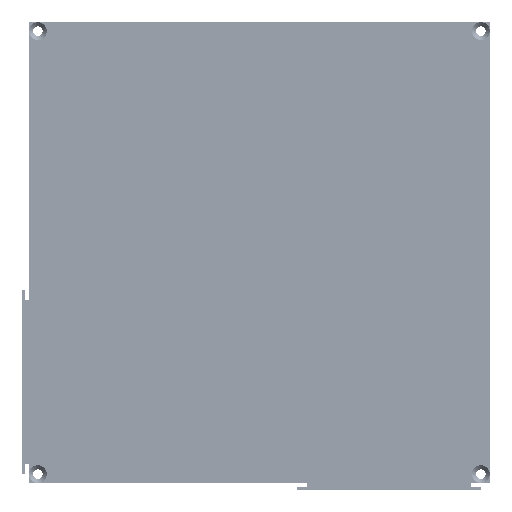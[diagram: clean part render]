
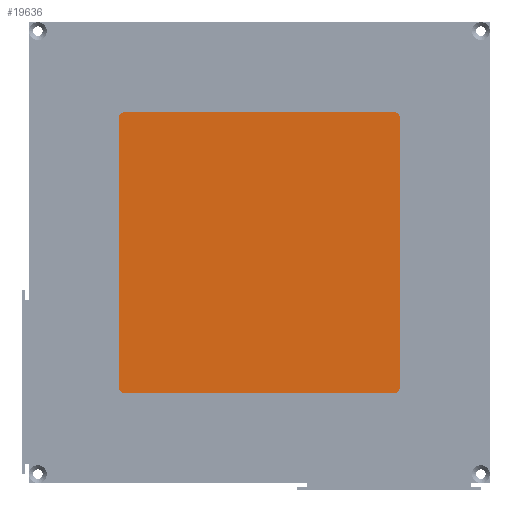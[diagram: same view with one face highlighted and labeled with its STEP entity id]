
A CAD part, front view. The second image highlights one B-rep face of the part: STEP entity #19636.
In plain terms, the highlighted planar face has unit normal (0, -1, 0).
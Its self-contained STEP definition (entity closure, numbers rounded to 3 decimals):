
#238=PLANE('',#20926);
#1280=FACE_OUTER_BOUND('',#2374,.T.);
#2374=EDGE_LOOP('',(#16507,#16508,#16509,#16510,#16511,#16512,#16513,#16514));
#2856=CIRCLE('',#20924,2.25);
#2858=CIRCLE('',#20927,2.25);
#2859=CIRCLE('',#20928,2.25);
#2860=CIRCLE('',#20929,2.25);
#5346=LINE('',#65675,#6644);
#5347=LINE('',#65679,#6645);
#5348=LINE('',#65683,#6646);
#5349=LINE('',#65686,#6647);
#6644=VECTOR('',#24314,10.);
#6645=VECTOR('',#24317,10.);
#6646=VECTOR('',#24320,10.);
#6647=VECTOR('',#24323,10.);
#8725=VERTEX_POINT('',#65665);
#8726=VERTEX_POINT('',#65666);
#8729=VERTEX_POINT('',#65674);
#8730=VERTEX_POINT('',#65676);
#8731=VERTEX_POINT('',#65678);
#8732=VERTEX_POINT('',#65680);
#8733=VERTEX_POINT('',#65682);
#8734=VERTEX_POINT('',#65684);
#11529=EDGE_CURVE('',#8725,#8726,#2856,.T.);
#11533=EDGE_CURVE('',#8729,#8725,#5346,.F.);
#11534=EDGE_CURVE('',#8730,#8729,#2858,.T.);
#11535=EDGE_CURVE('',#8731,#8730,#5347,.F.);
#11536=EDGE_CURVE('',#8732,#8731,#2859,.T.);
#11537=EDGE_CURVE('',#8733,#8732,#5348,.F.);
#11538=EDGE_CURVE('',#8734,#8733,#2860,.T.);
#11539=EDGE_CURVE('',#8726,#8734,#5349,.F.);
#16507=ORIENTED_EDGE('',*,*,#11529,.F.);
#16508=ORIENTED_EDGE('',*,*,#11533,.F.);
#16509=ORIENTED_EDGE('',*,*,#11534,.F.);
#16510=ORIENTED_EDGE('',*,*,#11535,.F.);
#16511=ORIENTED_EDGE('',*,*,#11536,.F.);
#16512=ORIENTED_EDGE('',*,*,#11537,.F.);
#16513=ORIENTED_EDGE('',*,*,#11538,.F.);
#16514=ORIENTED_EDGE('',*,*,#11539,.F.);
#19636=ADVANCED_FACE('',(#1280),#238,.T.);
#20924=AXIS2_PLACEMENT_3D('',#65667,#24306,#24307);
#20926=AXIS2_PLACEMENT_3D('',#65673,#24312,#24313);
#20927=AXIS2_PLACEMENT_3D('',#65677,#24315,#24316);
#20928=AXIS2_PLACEMENT_3D('',#65681,#24318,#24319);
#20929=AXIS2_PLACEMENT_3D('',#65685,#24321,#24322);
#24306=DIRECTION('center_axis',(0.,1.,0.));
#24307=DIRECTION('ref_axis',(-0.707,0.,0.707));
#24312=DIRECTION('center_axis',(0.,-1.,0.));
#24313=DIRECTION('ref_axis',(0.,0.,-1.));
#24314=DIRECTION('',(0.,0.,-1.));
#24315=DIRECTION('center_axis',(0.,1.,0.));
#24316=DIRECTION('ref_axis',(-0.707,0.,-0.707));
#24317=DIRECTION('',(1.,0.,0.));
#24318=DIRECTION('center_axis',(0.,1.,0.));
#24319=DIRECTION('ref_axis',(0.707,0.,-0.707));
#24320=DIRECTION('',(0.,0.,1.));
#24321=DIRECTION('center_axis',(0.,1.,0.));
#24322=DIRECTION('ref_axis',(0.707,0.,0.707));
#24323=DIRECTION('',(-1.,0.,0.));
#65665=CARTESIAN_POINT('',(-59.15,-202.,56.9));
#65666=CARTESIAN_POINT('',(-56.9,-202.,59.15));
#65667=CARTESIAN_POINT('Origin',(-56.9,-202.,56.9));
#65673=CARTESIAN_POINT('Origin',(0.,-202.,0.));
#65674=CARTESIAN_POINT('',(-59.15,-202.,-56.9));
#65675=CARTESIAN_POINT('',(-59.15,-202.,29.575));
#65676=CARTESIAN_POINT('',(-56.9,-202.,-59.15));
#65677=CARTESIAN_POINT('Origin',(-56.9,-202.,-56.9));
#65678=CARTESIAN_POINT('',(56.9,-202.,-59.15));
#65679=CARTESIAN_POINT('',(-29.575,-202.,-59.15));
#65680=CARTESIAN_POINT('',(59.15,-202.,-56.9));
#65681=CARTESIAN_POINT('Origin',(56.9,-202.,-56.9));
#65682=CARTESIAN_POINT('',(59.15,-202.,56.9));
#65683=CARTESIAN_POINT('',(59.15,-202.,-29.575));
#65684=CARTESIAN_POINT('',(56.9,-202.,59.15));
#65685=CARTESIAN_POINT('Origin',(56.9,-202.,56.9));
#65686=CARTESIAN_POINT('',(29.575,-202.,59.15));
